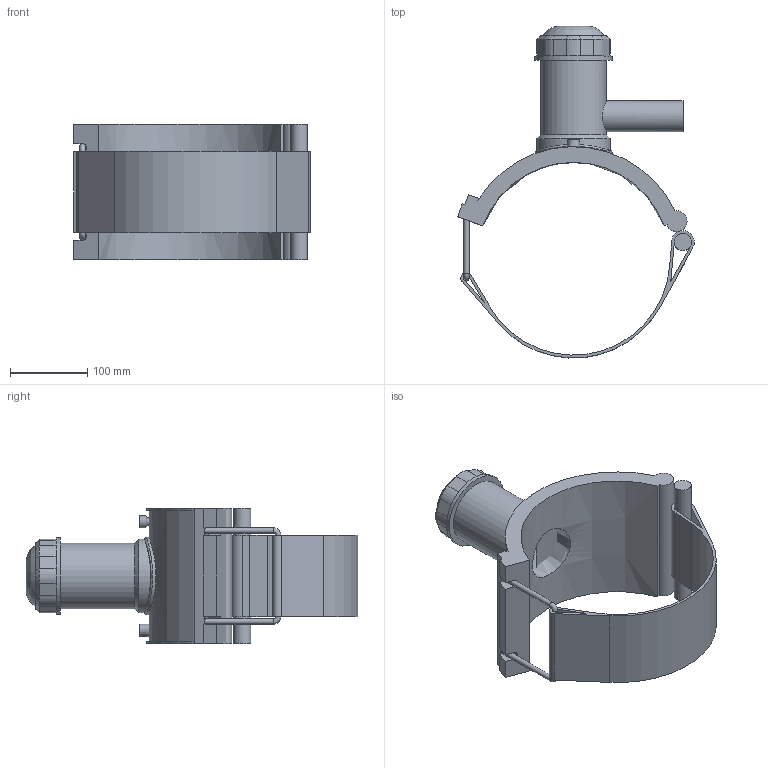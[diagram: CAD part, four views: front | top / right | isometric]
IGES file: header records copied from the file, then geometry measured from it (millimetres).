
Global section: file name: 496304250040.ipt; native system: Autodesk Inventor 2015; preprocessor: unknown; author: KIM; date: 20190124.131250; units: millimetre
Bounding box: 307.08 x 430.55 x 176 mm (x, y, z)
Volume: 1972006.4 mm3; surface area: 387750.1 mm2
Topology: 2 solids, 2 shells, 121 faces, 301 edges, 191 vertices
Faces by surface type: plane 68, cylinder 29, revolution 12, cone 11, bspline 1
Full cylindrical faces by diameter (mm): 4 x2, 7 x2, 22.115 x1, 40 x1, 85 x1, 95 x1, 100 x2
